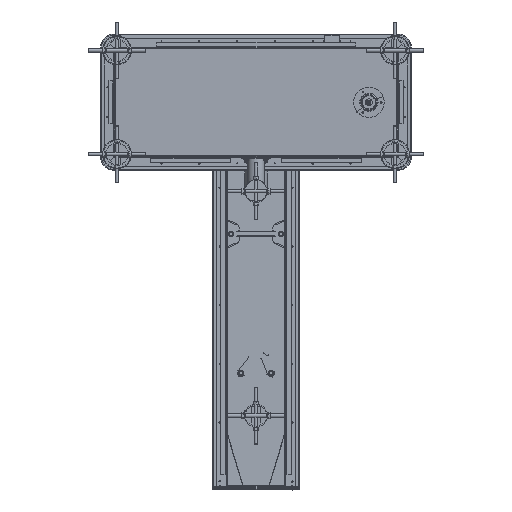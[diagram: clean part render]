
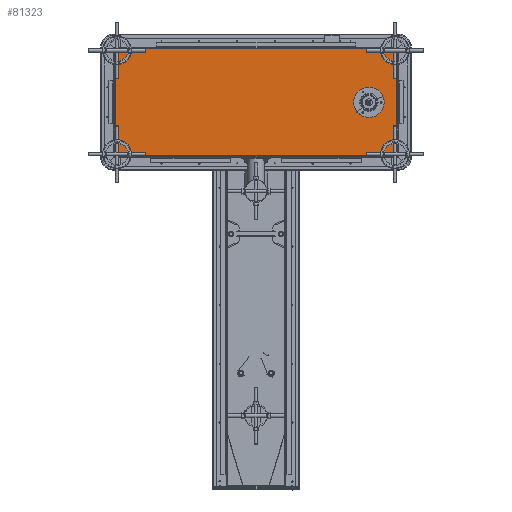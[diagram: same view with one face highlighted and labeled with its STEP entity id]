
A CAD part, front view. The second image highlights one B-rep face of the part: STEP entity #81323.
In plain terms, the highlighted planar face has unit normal (-0.018, -1, 0).
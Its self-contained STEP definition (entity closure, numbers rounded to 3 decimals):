
#711 = LINE ( 'NONE', #9427, #101132 ) ;
#790 = VERTEX_POINT ( 'NONE', #94586 ) ;
#1633 = DIRECTION ( 'NONE',  ( -1., 0.017, 0. ) ) ;
#1865 = DIRECTION ( 'NONE',  ( -1., 0.017, 0. ) ) ;
#2344 = DIRECTION ( 'NONE',  ( -1., 0.017, 0. ) ) ;
#2346 = DIRECTION ( 'NONE',  ( 0.017, 1., 0. ) ) ;
#2404 = EDGE_CURVE ( 'NONE', #98228, #53839, #89077, .T. ) ;
#2700 = CARTESIAN_POINT ( 'NONE',  ( 397.445, -160.656, 0. ) ) ;
#4902 = CIRCLE ( 'NONE', #73805, 2.45 ) ;
#5078 = CARTESIAN_POINT ( 'NONE',  ( -495.57, -145.069, -188. ) ) ;
#6075 = ORIENTED_EDGE ( 'NONE', *, *, #83185, .T. ) ;
#6938 = AXIS2_PLACEMENT_3D ( 'NONE', #63528, #87527, #1633 ) ;
#7403 = FACE_BOUND ( 'NONE', #55595, .T. ) ;
#8667 = CARTESIAN_POINT ( 'NONE',  ( 499.5, -162.438, -188. ) ) ;
#9003 = DIRECTION ( 'NONE',  ( 1., -0.017, 0. ) ) ;
#9427 = CARTESIAN_POINT ( 'NONE',  ( 495.43, -162.367, 188. ) ) ;
#9603 = EDGE_CURVE ( 'NONE', #92123, #21320, #97648, .T. ) ;
#10489 = DIRECTION ( 'NONE',  ( -1., 0.017, 0. ) ) ;
#15251 = VERTEX_POINT ( 'NONE', #5078 ) ;
#15859 = FACE_BOUND ( 'NONE', #87326, .T. ) ;
#18869 = DIRECTION ( 'NONE',  ( -1., 0.017, 0. ) ) ;
#19977 = ORIENTED_EDGE ( 'NONE', *, *, #66865, .F. ) ;
#20813 = FACE_OUTER_BOUND ( 'NONE', #81208, .T. ) ;
#21320 = VERTEX_POINT ( 'NONE', #81439 ) ;
#21428 = EDGE_CURVE ( 'NONE', #69422, #69993, #52184, .T. ) ;
#22431 = EDGE_CURVE ( 'NONE', #53839, #98228, #65355, .T. ) ;
#22455 = EDGE_LOOP ( 'NONE', ( #92801, #101070 ) ) ;
#23258 = ORIENTED_EDGE ( 'NONE', *, *, #22431, .T. ) ;
#25029 = AXIS2_PLACEMENT_3D ( 'NONE', #76352, #84222, #84555 ) ;
#25731 = ORIENTED_EDGE ( 'NONE', *, *, #87712, .F. ) ;
#25761 = FACE_BOUND ( 'NONE', #22455, .T. ) ;
#28408 = AXIS2_PLACEMENT_3D ( 'NONE', #2700, #2346, #10489 ) ;
#28460 = DIRECTION ( 'NONE',  ( -1., 0.017, 0. ) ) ;
#29647 = CARTESIAN_POINT ( 'NONE',  ( 373.748, -160.243, 36.806 ) ) ;
#29888 = EDGE_CURVE ( 'NONE', #21320, #92123, #47523, .T. ) ;
#31151 = LINE ( 'NONE', #69745, #33618 ) ;
#31932 = VERTEX_POINT ( 'NONE', #79921 ) ;
#33618 = VECTOR ( 'NONE', #101604, 1000. ) ;
#35794 = AXIS2_PLACEMENT_3D ( 'NONE', #66478, #66115, #18869 ) ;
#37355 = CIRCLE ( 'NONE', #41674, 30.25 ) ;
#38342 = CIRCLE ( 'NONE', #28408, 30.25 ) ;
#41308 = DIRECTION ( 'NONE',  ( 0.017, 1., 0. ) ) ;
#41674 = AXIS2_PLACEMENT_3D ( 'NONE', #71835, #41308, #2344 ) ;
#42288 = CARTESIAN_POINT ( 'NONE',  ( 442.388, -161.441, 0. ) ) ;
#44189 = CARTESIAN_POINT ( 'NONE',  ( 499.5, -162.438, 188. ) ) ;
#44311 = AXIS2_PLACEMENT_3D ( 'NONE', #58327, #74451, #81591 ) ;
#44637 = CARTESIAN_POINT ( 'NONE',  ( 495.43, -162.367, 188. ) ) ;
#45570 = ORIENTED_EDGE ( 'NONE', *, *, #29888, .T. ) ;
#47523 = CIRCLE ( 'NONE', #79981, 2.45 ) ;
#52184 = CIRCLE ( 'NONE', #94055, 2.45 ) ;
#52494 = VECTOR ( 'NONE', #9003, 1000. ) ;
#53839 = VERTEX_POINT ( 'NONE', #29647 ) ;
#54129 = VERTEX_POINT ( 'NONE', #44637 ) ;
#55595 = EDGE_LOOP ( 'NONE', ( #89530, #45570 ) ) ;
#56191 = DIRECTION ( 'NONE',  ( 0.017, 1., 0. ) ) ;
#56537 = CARTESIAN_POINT ( 'NONE',  ( 376.198, -160.285, -36.806 ) ) ;
#58327 = CARTESIAN_POINT ( 'NONE',  ( 376.198, -160.285, 36.806 ) ) ;
#60106 = EDGE_CURVE ( 'NONE', #81465, #68596, #37355, .T. ) ;
#60859 = LINE ( 'NONE', #44189, #92591 ) ;
#62425 = FACE_BOUND ( 'NONE', #85261, .T. ) ;
#63469 = LINE ( 'NONE', #8667, #52494 ) ;
#63528 = CARTESIAN_POINT ( 'NONE',  ( 376.198, -160.285, -36.806 ) ) ;
#64325 = EDGE_CURVE ( 'NONE', #68596, #81465, #38342, .T. ) ;
#65355 = CIRCLE ( 'NONE', #44311, 2.45 ) ;
#65395 = EDGE_CURVE ( 'NONE', #69993, #69422, #4902, .T. ) ;
#66115 = DIRECTION ( 'NONE',  ( 0.017, 1., 0. ) ) ;
#66478 = CARTESIAN_POINT ( 'NONE',  ( 499.5, -162.438, 188. ) ) ;
#66865 = EDGE_CURVE ( 'NONE', #54129, #790, #711, .T. ) ;
#68596 = VERTEX_POINT ( 'NONE', #97949 ) ;
#69422 = VERTEX_POINT ( 'NONE', #42288 ) ;
#69745 = CARTESIAN_POINT ( 'NONE',  ( -495.57, -145.069, 188. ) ) ;
#69837 = EDGE_CURVE ( 'NONE', #15251, #790, #63469, .T. ) ;
#69993 = VERTEX_POINT ( 'NONE', #81158 ) ;
#71835 = CARTESIAN_POINT ( 'NONE',  ( 397.445, -160.656, 0. ) ) ;
#71927 = CARTESIAN_POINT ( 'NONE',  ( 439.938, -161.398, 0. ) ) ;
#73805 = AXIS2_PLACEMENT_3D ( 'NONE', #71927, #94503, #94848 ) ;
#74309 = CARTESIAN_POINT ( 'NONE',  ( 439.938, -161.398, 0. ) ) ;
#74451 = DIRECTION ( 'NONE',  ( 0.017, 1., 0. ) ) ;
#76020 = CARTESIAN_POINT ( 'NONE',  ( 427.69, -161.184, 0. ) ) ;
#76352 = CARTESIAN_POINT ( 'NONE',  ( 376.198, -160.285, 36.806 ) ) ;
#77109 = CARTESIAN_POINT ( 'NONE',  ( 378.648, -160.328, 36.806 ) ) ;
#79513 = ORIENTED_EDGE ( 'NONE', *, *, #69837, .T. ) ;
#79875 = CARTESIAN_POINT ( 'NONE',  ( 373.748, -160.243, -36.806 ) ) ;
#79921 = CARTESIAN_POINT ( 'NONE',  ( -495.57, -145.069, 188. ) ) ;
#79981 = AXIS2_PLACEMENT_3D ( 'NONE', #56537, #56191, #1865 ) ;
#81158 = CARTESIAN_POINT ( 'NONE',  ( 437.489, -161.355, 0. ) ) ;
#81208 = EDGE_LOOP ( 'NONE', ( #79513, #19977, #25731, #6075 ) ) ;
#81323 = ADVANCED_FACE ( 'NONE', ( #7403, #62425, #25761, #15859, #20813 ), #87730, .F. ) ;
#81439 = CARTESIAN_POINT ( 'NONE',  ( 378.648, -160.328, -36.806 ) ) ;
#81465 = VERTEX_POINT ( 'NONE', #76020 ) ;
#81591 = DIRECTION ( 'NONE',  ( -1., 0.017, 0. ) ) ;
#82381 = ORIENTED_EDGE ( 'NONE', *, *, #64325, .T. ) ;
#82478 = DIRECTION ( 'NONE',  ( 0.017, 1., 0. ) ) ;
#83185 = EDGE_CURVE ( 'NONE', #31932, #15251, #31151, .T. ) ;
#84222 = DIRECTION ( 'NONE',  ( 0.017, 1., 0. ) ) ;
#84555 = DIRECTION ( 'NONE',  ( -1., 0.017, 0. ) ) ;
#85261 = EDGE_LOOP ( 'NONE', ( #23258, #90746 ) ) ;
#87326 = EDGE_LOOP ( 'NONE', ( #82381, #96928 ) ) ;
#87527 = DIRECTION ( 'NONE',  ( 0.017, 1., 0. ) ) ;
#87712 = EDGE_CURVE ( 'NONE', #31932, #54129, #60859, .T. ) ;
#87730 = PLANE ( 'NONE',  #35794 ) ;
#88149 = DIRECTION ( 'NONE',  ( 0., 0., -1. ) ) ;
#89077 = CIRCLE ( 'NONE', #25029, 2.45 ) ;
#89530 = ORIENTED_EDGE ( 'NONE', *, *, #9603, .T. ) ;
#90746 = ORIENTED_EDGE ( 'NONE', *, *, #2404, .T. ) ;
#92123 = VERTEX_POINT ( 'NONE', #79875 ) ;
#92591 = VECTOR ( 'NONE', #98979, 1000. ) ;
#92801 = ORIENTED_EDGE ( 'NONE', *, *, #65395, .T. ) ;
#94055 = AXIS2_PLACEMENT_3D ( 'NONE', #74309, #82478, #28460 ) ;
#94503 = DIRECTION ( 'NONE',  ( 0.017, 1., 0. ) ) ;
#94586 = CARTESIAN_POINT ( 'NONE',  ( 495.43, -162.367, -188. ) ) ;
#94848 = DIRECTION ( 'NONE',  ( -1., 0.017, 0. ) ) ;
#96928 = ORIENTED_EDGE ( 'NONE', *, *, #60106, .T. ) ;
#97648 = CIRCLE ( 'NONE', #6938, 2.45 ) ;
#97949 = CARTESIAN_POINT ( 'NONE',  ( 367.199, -160.128, 0. ) ) ;
#98228 = VERTEX_POINT ( 'NONE', #77109 ) ;
#98979 = DIRECTION ( 'NONE',  ( 1., -0.017, 0. ) ) ;
#101070 = ORIENTED_EDGE ( 'NONE', *, *, #21428, .T. ) ;
#101132 = VECTOR ( 'NONE', #88149, 1000. ) ;
#101604 = DIRECTION ( 'NONE',  ( 0., 0., -1. ) ) ;
